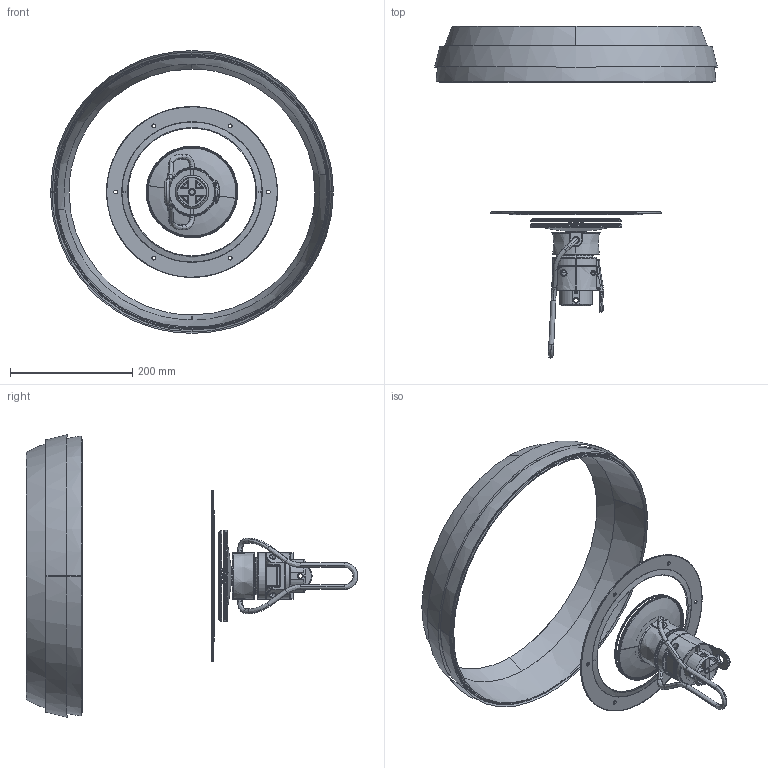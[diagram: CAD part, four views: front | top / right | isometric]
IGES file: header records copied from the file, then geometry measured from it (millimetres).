
Start section: SolidWorks IGES file using analytic representation for surfaces
Bounding box: 463.26 x 543.89 x 463.51 mm (x, y, z)
Surface area: 7888457.3 mm2 (no closed solid volume)
Topology: 0 solids, 0 shells, 1523 faces, 17026 edges, 16937 vertices
Faces by surface type: revolution 826, bspline 697
